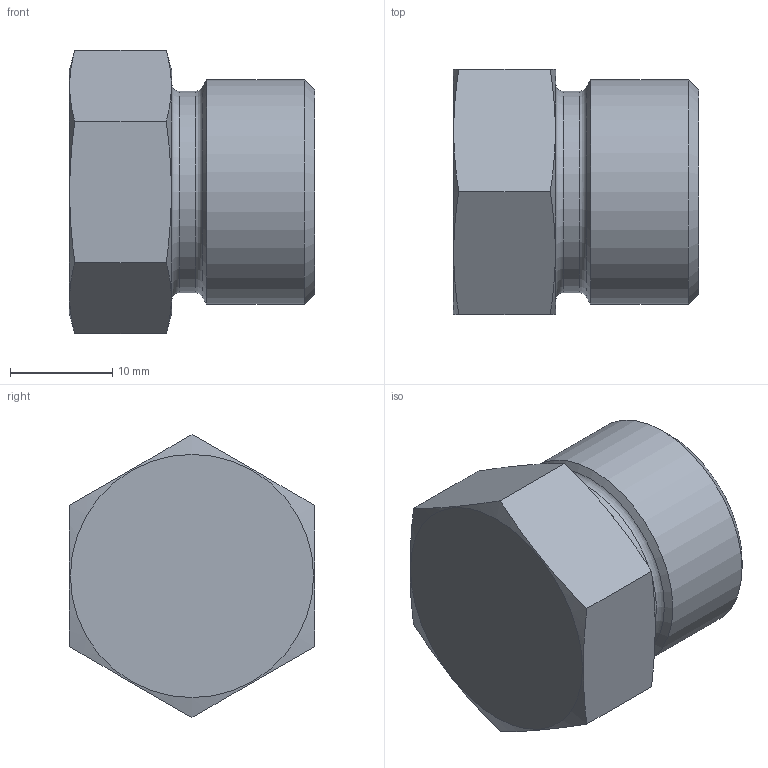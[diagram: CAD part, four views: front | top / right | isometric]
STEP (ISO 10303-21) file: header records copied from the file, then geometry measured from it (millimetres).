
FILE_DESCRIPTION( ( 'Unknown' ), '1' );
FILE_NAME( 'C:/Users/p.nanko/Desktop/3D SR/XROV14S.stp', 'Unknown', ( 'Peter Nanko' ), ( 'Armaturen Arndt' ), 'PSStep 14.0', 'Solid Edge ST4', ' ' );
FILE_SCHEMA( ( 'AUTOMOTIVE_DESIGN { 1 0 10303 214 1 1 1 1 }' ) );
Length unit declared in the file: millimetre
Products named in the file (1): 1
Bounding box: 24 x 24 x 27.71 mm (x, y, z)
Volume: 8233.4 mm3; surface area: 3273.6 mm2
Topology: 1 solids, 1 shells, 22 faces, 47 edges, 29 vertices
Faces by surface type: plane 10, cone 6, cylinder 4, torus 2
Full cylindrical faces by diameter (mm): 10 x1, 14 x1, 19.7 x1, 22 x1
Entity records: 774 total; most frequent: CARTESIAN_POINT 182, DIRECTION 80, ORIENTED_EDGE 64, AXIS2_PLACEMENT_3D 37, EDGE_LOOP 36, EDGE_CURVE 32, FACE_OUTER_BOUND 28, VERTEX_POINT 27
